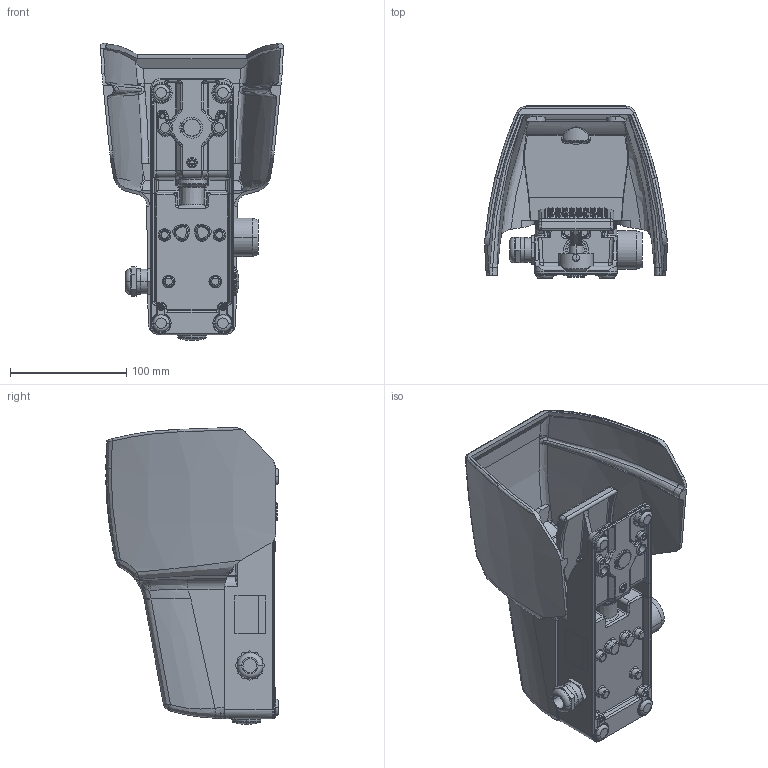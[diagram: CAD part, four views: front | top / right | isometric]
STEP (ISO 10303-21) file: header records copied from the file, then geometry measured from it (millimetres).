
FILE_DESCRIPTION((''),'2;1');
FILE_NAME('6161000626','2025-07-11T07:04:17',('markus.finger'),(''),'CREO PARAMETRIC BY PTC INC, 2022124','CREO PARAMETRIC BY PTC INC, 2022124','');
FILE_SCHEMA(('AUTOMOTIVE_DESIGN { 1 0 10303 214 1 1 1 1 }'));
Products named in the file (1): 6161000626
Bounding box: 157.02 x 148.49 x 255.09 mm (x, y, z)
Volume: 873107.1 mm3; surface area: 262833.3 mm2
Topology: 6 solids, 6 shells, 3017 faces, 6923 edges, 4172 vertices
Faces by surface type: plane 1267, cylinder 757, bspline 483, torus 284, cone 148, sphere 72, extrusion 6
Entity records: 170097 total; most frequent: CARTESIAN_POINT 62459, ORIENTED_EDGE 13784, DIRECTION 12591, PRESENTATION_STYLE_ASSIGNMENT 9923, STYLED_ITEM 6908, CURVE_STYLE 6902, EDGE_CURVE 6892, AXIS2_PLACEMENT_3D 4627
